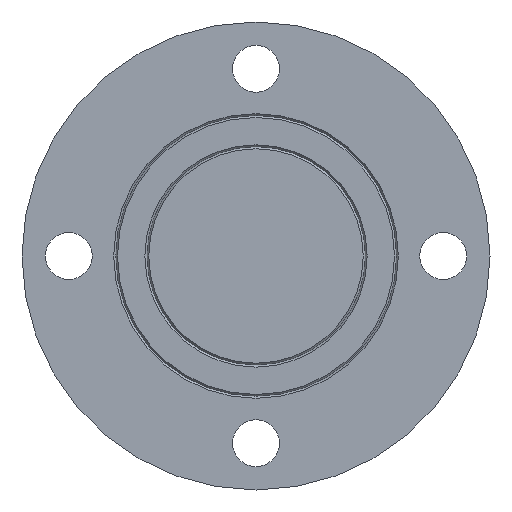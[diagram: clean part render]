
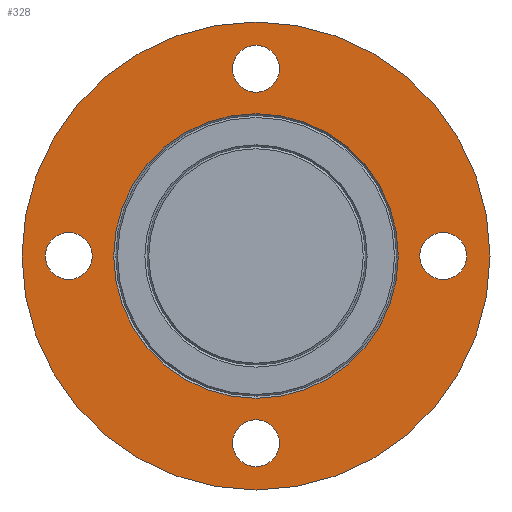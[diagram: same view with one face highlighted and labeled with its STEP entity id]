
A CAD part, front view. The second image highlights one B-rep face of the part: STEP entity #328.
In plain terms, the highlighted planar face has unit normal (0, -1, 0).
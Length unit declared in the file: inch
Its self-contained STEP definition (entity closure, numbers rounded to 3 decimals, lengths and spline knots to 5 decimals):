
#5 = CARTESIAN_POINT ( 'NONE',  ( 3., -0.375, 0. ) ) ;
#12 = AXIS2_PLACEMENT_3D ( 'NONE', #5, #770, #127 ) ;
#19 = CARTESIAN_POINT ( 'NONE',  ( 0., -0.375, 0. ) ) ;
#34 = CARTESIAN_POINT ( 'NONE',  ( 0., -0.375, -2.625 ) ) ;
#41 = CARTESIAN_POINT ( 'NONE',  ( -3., -0.375, 0. ) ) ;
#43 = CARTESIAN_POINT ( 'NONE',  ( 0., -0.375, -3.375 ) ) ;
#44 = CARTESIAN_POINT ( 'NONE',  ( -3., -0.375, 0.375 ) ) ;
#54 = CARTESIAN_POINT ( 'NONE',  ( 0., -0.375, -3.75 ) ) ;
#65 = EDGE_CURVE ( 'NONE', #886, #1017, #1116, .T. ) ;
#82 = VERTEX_POINT ( 'NONE', #527 ) ;
#97 = EDGE_CURVE ( 'NONE', #626, #1101, #1335, .T. ) ;
#101 = VERTEX_POINT ( 'NONE', #635 ) ;
#106 = DIRECTION ( 'NONE',  ( 0., 1., 0. ) ) ;
#127 = DIRECTION ( 'NONE',  ( 0., 0., 1. ) ) ;
#133 = DIRECTION ( 'NONE',  ( 0., 0., 1. ) ) ;
#154 = VERTEX_POINT ( 'NONE', #281 ) ;
#156 = DIRECTION ( 'NONE',  ( 0., 0., 1. ) ) ;
#176 = AXIS2_PLACEMENT_3D ( 'NONE', #401, #415, #418 ) ;
#183 = CARTESIAN_POINT ( 'NONE',  ( 0., -0.375, 0. ) ) ;
#189 = EDGE_LOOP ( 'NONE', ( #819, #836 ) ) ;
#197 = AXIS2_PLACEMENT_3D ( 'NONE', #1137, #1235, #1347 ) ;
#251 = DIRECTION ( 'NONE',  ( 0., 1., 0. ) ) ;
#255 = DIRECTION ( 'NONE',  ( 0., 1., 0. ) ) ;
#281 = CARTESIAN_POINT ( 'NONE',  ( 0., -0.375, 3.375 ) ) ;
#289 = DIRECTION ( 'NONE',  ( 0., 1., 0. ) ) ;
#318 = EDGE_LOOP ( 'NONE', ( #803, #809 ) ) ;
#328 = ADVANCED_FACE ( 'NONE', ( #1131, #1168, #1144, #1166, #1182, #1113 ), #1027, .F. ) ;
#352 = EDGE_LOOP ( 'NONE', ( #742, #788 ) ) ;
#369 = VERTEX_POINT ( 'NONE', #1231 ) ;
#372 = CARTESIAN_POINT ( 'NONE',  ( 0., -0.375, -2.281 ) ) ;
#379 = DIRECTION ( 'NONE',  ( 0., -1., 0. ) ) ;
#392 = CIRCLE ( 'NONE', #422, 2.281 ) ;
#397 = EDGE_CURVE ( 'NONE', #1104, #932, #1106, .T. ) ;
#400 = AXIS2_PLACEMENT_3D ( 'NONE', #183, #379, #1103 ) ;
#401 = CARTESIAN_POINT ( 'NONE',  ( 0., -0.375, -3. ) ) ;
#407 = EDGE_LOOP ( 'NONE', ( #791, #794 ) ) ;
#411 = AXIS2_PLACEMENT_3D ( 'NONE', #585, #1301, #685 ) ;
#415 = DIRECTION ( 'NONE',  ( 0., 1., 0. ) ) ;
#418 = DIRECTION ( 'NONE',  ( 0., 0., 1. ) ) ;
#422 = AXIS2_PLACEMENT_3D ( 'NONE', #891, #255, #988 ) ;
#444 = CIRCLE ( 'NONE', #497, 0.375 ) ;
#463 = DIRECTION ( 'NONE',  ( 0., 0., 1. ) ) ;
#469 = VERTEX_POINT ( 'NONE', #1059 ) ;
#470 = DIRECTION ( 'NONE',  ( 0., -1., 0. ) ) ;
#496 = EDGE_LOOP ( 'NONE', ( #962, #947 ) ) ;
#497 = AXIS2_PLACEMENT_3D ( 'NONE', #750, #106, #850 ) ;
#505 = EDGE_LOOP ( 'NONE', ( #838, #856 ) ) ;
#519 = EDGE_CURVE ( 'NONE', #82, #469, #1019, .T. ) ;
#527 = CARTESIAN_POINT ( 'NONE',  ( 3., -0.375, 0.375 ) ) ;
#557 = AXIS2_PLACEMENT_3D ( 'NONE', #887, #251, #984 ) ;
#585 = CARTESIAN_POINT ( 'NONE',  ( 0., -0.375, 3. ) ) ;
#592 = EDGE_CURVE ( 'NONE', #1101, #626, #981, .T. ) ;
#602 = AXIS2_PLACEMENT_3D ( 'NONE', #920, #289, #1122 ) ;
#604 = EDGE_CURVE ( 'NONE', #1017, #886, #964, .T. ) ;
#617 = EDGE_CURVE ( 'NONE', #101, #905, #1004, .T. ) ;
#625 = AXIS2_PLACEMENT_3D ( 'NONE', #1075, #470, #1179 ) ;
#626 = VERTEX_POINT ( 'NONE', #1280 ) ;
#635 = CARTESIAN_POINT ( 'NONE',  ( 0., -0.375, 2.281 ) ) ;
#672 = EDGE_CURVE ( 'NONE', #932, #1104, #927, .T. ) ;
#685 = DIRECTION ( 'NONE',  ( 0., 0., 1. ) ) ;
#742 = ORIENTED_EDGE ( 'NONE', *, *, #519, .T. ) ;
#744 = EDGE_CURVE ( 'NONE', #369, #154, #917, .T. ) ;
#750 = CARTESIAN_POINT ( 'NONE',  ( 3., -0.375, 0. ) ) ;
#770 = DIRECTION ( 'NONE',  ( 0., 1., 0. ) ) ;
#781 = DIRECTION ( 'NONE',  ( 0., 1., 0. ) ) ;
#788 = ORIENTED_EDGE ( 'NONE', *, *, #1309, .T. ) ;
#791 = ORIENTED_EDGE ( 'NONE', *, *, #604, .T. ) ;
#794 = ORIENTED_EDGE ( 'NONE', *, *, #65, .T. ) ;
#797 = DIRECTION ( 'NONE',  ( 0., 1., 0. ) ) ;
#801 = EDGE_CURVE ( 'NONE', #154, #369, #816, .T. ) ;
#803 = ORIENTED_EDGE ( 'NONE', *, *, #592, .T. ) ;
#809 = ORIENTED_EDGE ( 'NONE', *, *, #97, .T. ) ;
#816 = CIRCLE ( 'NONE', #411, 0.375 ) ;
#819 = ORIENTED_EDGE ( 'NONE', *, *, #801, .T. ) ;
#836 = ORIENTED_EDGE ( 'NONE', *, *, #744, .T. ) ;
#838 = ORIENTED_EDGE ( 'NONE', *, *, #397, .T. ) ;
#850 = DIRECTION ( 'NONE',  ( 0., 0., 1. ) ) ;
#856 = ORIENTED_EDGE ( 'NONE', *, *, #672, .T. ) ;
#886 = VERTEX_POINT ( 'NONE', #43 ) ;
#887 = CARTESIAN_POINT ( 'NONE',  ( 0., -0.375, 3. ) ) ;
#891 = CARTESIAN_POINT ( 'NONE',  ( 0., -0.375, 0. ) ) ;
#904 = AXIS2_PLACEMENT_3D ( 'NONE', #19, #781, #133 ) ;
#905 = VERTEX_POINT ( 'NONE', #372 ) ;
#917 = CIRCLE ( 'NONE', #557, 0.375 ) ;
#920 = CARTESIAN_POINT ( 'NONE',  ( 0., -0.375, 0. ) ) ;
#927 = CIRCLE ( 'NONE', #625, 3.75 ) ;
#932 = VERTEX_POINT ( 'NONE', #998 ) ;
#947 = ORIENTED_EDGE ( 'NONE', *, *, #617, .T. ) ;
#962 = ORIENTED_EDGE ( 'NONE', *, *, #1361, .T. ) ;
#964 = CIRCLE ( 'NONE', #1100, 0.375 ) ;
#981 = CIRCLE ( 'NONE', #1237, 0.375 ) ;
#984 = DIRECTION ( 'NONE',  ( 0., 0., 1. ) ) ;
#988 = DIRECTION ( 'NONE',  ( 0., 0., 1. ) ) ;
#998 = CARTESIAN_POINT ( 'NONE',  ( 0., -0.375, 3.75 ) ) ;
#1004 = CIRCLE ( 'NONE', #904, 2.281 ) ;
#1017 = VERTEX_POINT ( 'NONE', #34 ) ;
#1019 = CIRCLE ( 'NONE', #12, 0.375 ) ;
#1027 = PLANE ( 'NONE',  #602 ) ;
#1059 = CARTESIAN_POINT ( 'NONE',  ( 3., -0.375, -0.375 ) ) ;
#1064 = DIRECTION ( 'NONE',  ( 0., 1., 0. ) ) ;
#1075 = CARTESIAN_POINT ( 'NONE',  ( 0., -0.375, 0. ) ) ;
#1096 = CARTESIAN_POINT ( 'NONE',  ( 0., -0.375, -3. ) ) ;
#1100 = AXIS2_PLACEMENT_3D ( 'NONE', #1096, #1064, #463 ) ;
#1101 = VERTEX_POINT ( 'NONE', #44 ) ;
#1103 = DIRECTION ( 'NONE',  ( 0., 0., -1. ) ) ;
#1104 = VERTEX_POINT ( 'NONE', #54 ) ;
#1106 = CIRCLE ( 'NONE', #400, 3.75 ) ;
#1113 = FACE_BOUND ( 'NONE', #496, .T. ) ;
#1116 = CIRCLE ( 'NONE', #176, 0.375 ) ;
#1122 = DIRECTION ( 'NONE',  ( 0., 0., 1. ) ) ;
#1131 = FACE_BOUND ( 'NONE', #352, .T. ) ;
#1137 = CARTESIAN_POINT ( 'NONE',  ( -3., -0.375, 0. ) ) ;
#1144 = FACE_BOUND ( 'NONE', #318, .T. ) ;
#1166 = FACE_BOUND ( 'NONE', #189, .T. ) ;
#1168 = FACE_BOUND ( 'NONE', #407, .T. ) ;
#1179 = DIRECTION ( 'NONE',  ( 0., 0., -1. ) ) ;
#1182 = FACE_OUTER_BOUND ( 'NONE', #505, .T. ) ;
#1231 = CARTESIAN_POINT ( 'NONE',  ( 0., -0.375, 2.625 ) ) ;
#1235 = DIRECTION ( 'NONE',  ( 0., 1., 0. ) ) ;
#1237 = AXIS2_PLACEMENT_3D ( 'NONE', #41, #797, #156 ) ;
#1280 = CARTESIAN_POINT ( 'NONE',  ( -3., -0.375, -0.375 ) ) ;
#1301 = DIRECTION ( 'NONE',  ( 0., 1., 0. ) ) ;
#1309 = EDGE_CURVE ( 'NONE', #469, #82, #444, .T. ) ;
#1335 = CIRCLE ( 'NONE', #197, 0.375 ) ;
#1347 = DIRECTION ( 'NONE',  ( 0., 0., 1. ) ) ;
#1361 = EDGE_CURVE ( 'NONE', #905, #101, #392, .T. ) ;
